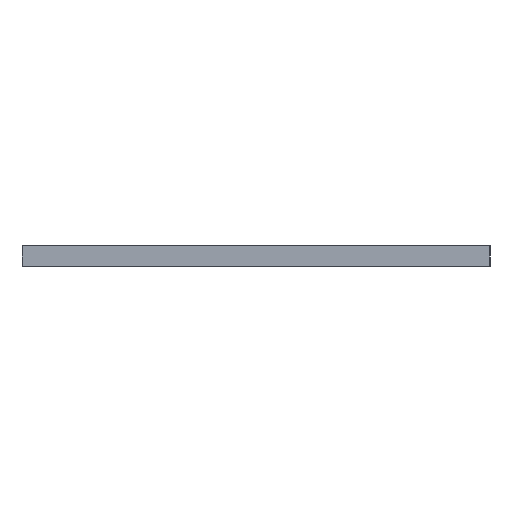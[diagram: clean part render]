
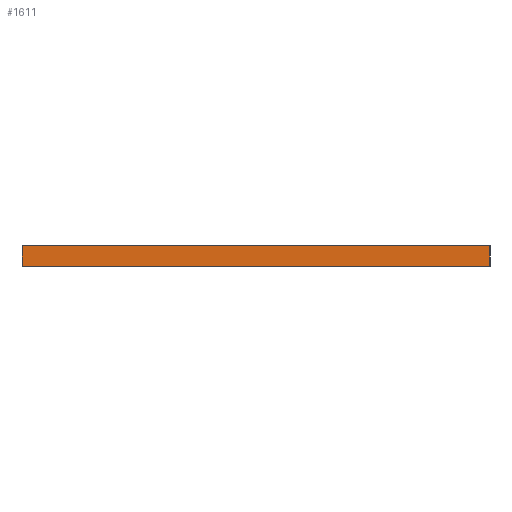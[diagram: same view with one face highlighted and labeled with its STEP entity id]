
A CAD part, left-side view. The second image highlights one B-rep face of the part: STEP entity #1611.
In plain terms, the highlighted planar face has unit normal (-1, 0, 0).
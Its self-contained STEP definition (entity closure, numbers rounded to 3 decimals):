
#22 = VERTEX_POINT('',#23);
#23 = CARTESIAN_POINT('',(0.,0.,0.));
#32 = PLANE('',#33);
#33 = AXIS2_PLACEMENT_3D('',#34,#35,#36);
#34 = CARTESIAN_POINT('',(0.,0.,0.));
#35 = DIRECTION('',(0.,1.,0.));
#36 = DIRECTION('',(1.,0.,0.));
#44 = PLANE('',#45);
#45 = AXIS2_PLACEMENT_3D('',#46,#47,#48);
#46 = CARTESIAN_POINT('',(150.,115.,0.));
#47 = DIRECTION('',(0.,0.,1.));
#48 = DIRECTION('',(1.,0.,0.));
#56 = EDGE_CURVE('',#22,#57,#59,.T.);
#57 = VERTEX_POINT('',#58);
#58 = CARTESIAN_POINT('',(0.,0.,10.));
#59 = SURFACE_CURVE('',#60,(#64,#71),.PCURVE_S1.);
#60 = LINE('',#61,#62);
#61 = CARTESIAN_POINT('',(0.,0.,0.));
#62 = VECTOR('',#63,1.);
#63 = DIRECTION('',(0.,0.,1.));
#64 = PCURVE('',#32,#65);
#65 = DEFINITIONAL_REPRESENTATION('',(#66),#70);
#66 = LINE('',#67,#68);
#67 = CARTESIAN_POINT('',(0.,0.));
#68 = VECTOR('',#69,1.);
#69 = DIRECTION('',(0.,-1.));
#70 = ( GEOMETRIC_REPRESENTATION_CONTEXT(2) 
PARAMETRIC_REPRESENTATION_CONTEXT() REPRESENTATION_CONTEXT('2D SPACE',''
  ) );
#71 = PCURVE('',#72,#77);
#72 = PLANE('',#73);
#73 = AXIS2_PLACEMENT_3D('',#74,#75,#76);
#74 = CARTESIAN_POINT('',(0.,230.,0.));
#75 = DIRECTION('',(1.,0.,0.));
#76 = DIRECTION('',(0.,-1.,0.));
#77 = DEFINITIONAL_REPRESENTATION('',(#78),#82);
#78 = LINE('',#79,#80);
#79 = CARTESIAN_POINT('',(230.,0.));
#80 = VECTOR('',#81,1.);
#81 = DIRECTION('',(0.,-1.));
#82 = ( GEOMETRIC_REPRESENTATION_CONTEXT(2) 
PARAMETRIC_REPRESENTATION_CONTEXT() REPRESENTATION_CONTEXT('2D SPACE',''
  ) );
#100 = PLANE('',#101);
#101 = AXIS2_PLACEMENT_3D('',#102,#103,#104);
#102 = CARTESIAN_POINT('',(0.,0.,10.));
#103 = DIRECTION('',(0.,0.,1.));
#104 = DIRECTION('',(1.,0.,0.));
#166 = VERTEX_POINT('',#167);
#167 = CARTESIAN_POINT('',(0.,230.,0.));
#181 = PLANE('',#182);
#182 = AXIS2_PLACEMENT_3D('',#183,#184,#185);
#183 = CARTESIAN_POINT('',(300.,230.,0.));
#184 = DIRECTION('',(0.,-1.,0.));
#185 = DIRECTION('',(-1.,0.,0.));
#193 = EDGE_CURVE('',#166,#22,#194,.T.);
#194 = SURFACE_CURVE('',#195,(#199,#206),.PCURVE_S1.);
#195 = LINE('',#196,#197);
#196 = CARTESIAN_POINT('',(0.,230.,0.));
#197 = VECTOR('',#198,1.);
#198 = DIRECTION('',(0.,-1.,0.));
#199 = PCURVE('',#44,#200);
#200 = DEFINITIONAL_REPRESENTATION('',(#201),#205);
#201 = LINE('',#202,#203);
#202 = CARTESIAN_POINT('',(-150.,115.));
#203 = VECTOR('',#204,1.);
#204 = DIRECTION('',(0.,-1.));
#205 = ( GEOMETRIC_REPRESENTATION_CONTEXT(2) 
PARAMETRIC_REPRESENTATION_CONTEXT() REPRESENTATION_CONTEXT('2D SPACE',''
  ) );
#206 = PCURVE('',#72,#207);
#207 = DEFINITIONAL_REPRESENTATION('',(#208),#212);
#208 = LINE('',#209,#210);
#209 = CARTESIAN_POINT('',(0.,0.));
#210 = VECTOR('',#211,1.);
#211 = DIRECTION('',(1.,0.));
#212 = ( GEOMETRIC_REPRESENTATION_CONTEXT(2) 
PARAMETRIC_REPRESENTATION_CONTEXT() REPRESENTATION_CONTEXT('2D SPACE',''
  ) );
#958 = EDGE_CURVE('',#959,#57,#961,.T.);
#959 = VERTEX_POINT('',#960);
#960 = CARTESIAN_POINT('',(0.,230.,10.));
#961 = SURFACE_CURVE('',#962,(#966,#973),.PCURVE_S1.);
#962 = LINE('',#963,#964);
#963 = CARTESIAN_POINT('',(0.,115.,10.));
#964 = VECTOR('',#965,1.);
#965 = DIRECTION('',(0.,-1.,0.));
#966 = PCURVE('',#100,#967);
#967 = DEFINITIONAL_REPRESENTATION('',(#968),#972);
#968 = LINE('',#969,#970);
#969 = CARTESIAN_POINT('',(0.,115.));
#970 = VECTOR('',#971,1.);
#971 = DIRECTION('',(0.,-1.));
#972 = ( GEOMETRIC_REPRESENTATION_CONTEXT(2) 
PARAMETRIC_REPRESENTATION_CONTEXT() REPRESENTATION_CONTEXT('2D SPACE',''
  ) );
#973 = PCURVE('',#72,#974);
#974 = DEFINITIONAL_REPRESENTATION('',(#975),#979);
#975 = LINE('',#976,#977);
#976 = CARTESIAN_POINT('',(115.,-10.));
#977 = VECTOR('',#978,1.);
#978 = DIRECTION('',(1.,0.));
#979 = ( GEOMETRIC_REPRESENTATION_CONTEXT(2) 
PARAMETRIC_REPRESENTATION_CONTEXT() REPRESENTATION_CONTEXT('2D SPACE',''
  ) );
#1611 = ADVANCED_FACE('',(#1612),#72,.F.);
#1612 = FACE_BOUND('',#1613,.F.);
#1613 = EDGE_LOOP('',(#1614,#1615,#1636,#1637));
#1614 = ORIENTED_EDGE('',*,*,#193,.F.);
#1615 = ORIENTED_EDGE('',*,*,#1616,.T.);
#1616 = EDGE_CURVE('',#166,#959,#1617,.T.);
#1617 = SURFACE_CURVE('',#1618,(#1622,#1629),.PCURVE_S1.);
#1618 = LINE('',#1619,#1620);
#1619 = CARTESIAN_POINT('',(0.,230.,0.));
#1620 = VECTOR('',#1621,1.);
#1621 = DIRECTION('',(0.,0.,1.));
#1622 = PCURVE('',#72,#1623);
#1623 = DEFINITIONAL_REPRESENTATION('',(#1624),#1628);
#1624 = LINE('',#1625,#1626);
#1625 = CARTESIAN_POINT('',(0.,0.));
#1626 = VECTOR('',#1627,1.);
#1627 = DIRECTION('',(0.,-1.));
#1628 = ( GEOMETRIC_REPRESENTATION_CONTEXT(2) 
PARAMETRIC_REPRESENTATION_CONTEXT() REPRESENTATION_CONTEXT('2D SPACE',''
  ) );
#1629 = PCURVE('',#181,#1630);
#1630 = DEFINITIONAL_REPRESENTATION('',(#1631),#1635);
#1631 = LINE('',#1632,#1633);
#1632 = CARTESIAN_POINT('',(300.,0.));
#1633 = VECTOR('',#1634,1.);
#1634 = DIRECTION('',(0.,-1.));
#1635 = ( GEOMETRIC_REPRESENTATION_CONTEXT(2) 
PARAMETRIC_REPRESENTATION_CONTEXT() REPRESENTATION_CONTEXT('2D SPACE',''
  ) );
#1636 = ORIENTED_EDGE('',*,*,#958,.T.);
#1637 = ORIENTED_EDGE('',*,*,#56,.F.);
